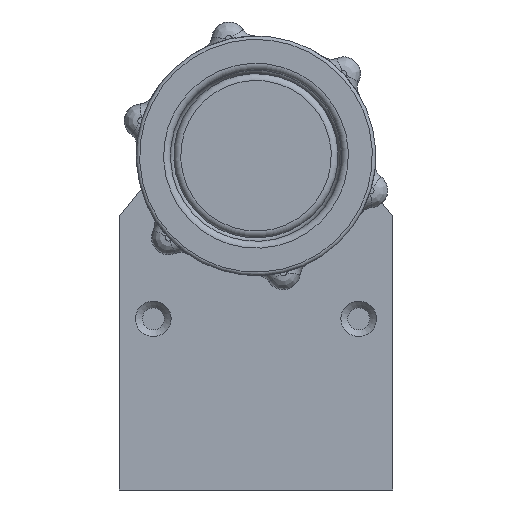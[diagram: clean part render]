
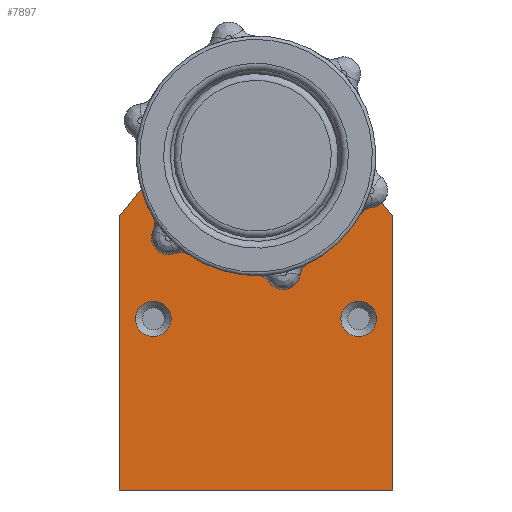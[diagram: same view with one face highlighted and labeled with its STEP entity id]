
A CAD part, front view. The second image highlights one B-rep face of the part: STEP entity #7897.
In plain terms, the highlighted planar face has unit normal (0, -1, 0).
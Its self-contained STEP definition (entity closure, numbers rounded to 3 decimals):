
#437=LINE('',#17982,#932);
#470=LINE('',#18050,#965);
#515=LINE('',#18157,#1010);
#516=LINE('',#18159,#1011);
#517=LINE('',#18162,#1012);
#932=VECTOR('',#9784,10.);
#965=VECTOR('',#9841,10.);
#1010=VECTOR('',#9944,10.);
#1011=VECTOR('',#9945,10.);
#1012=VECTOR('',#9948,10.);
#1857=FACE_BOUND('',#2598,.T.);
#1858=FACE_BOUND('',#2599,.T.);
#1859=FACE_BOUND('',#2600,.T.);
#2092=FACE_OUTER_BOUND('',#2597,.T.);
#2597=EDGE_LOOP('',(#6200,#6201,#6202,#6203,#6204,#6205));
#2598=EDGE_LOOP('',(#6206));
#2599=EDGE_LOOP('',(#6207));
#2600=EDGE_LOOP('',(#6208));
#2963=CIRCLE('',#8582,2.6);
#2965=CIRCLE('',#8585,10.);
#2966=CIRCLE('',#8586,2.6);
#2967=CIRCLE('',#8587,7.625);
#3502=VERTEX_POINT('',#17979);
#3503=VERTEX_POINT('',#17981);
#3526=VERTEX_POINT('',#18049);
#3557=VERTEX_POINT('',#18150);
#3559=VERTEX_POINT('',#18156);
#3560=VERTEX_POINT('',#18158);
#3561=VERTEX_POINT('',#18160);
#3562=VERTEX_POINT('',#18163);
#3563=VERTEX_POINT('',#18165);
#4415=EDGE_CURVE('',#3502,#3503,#437,.T.);
#4450=EDGE_CURVE('',#3526,#3503,#470,.T.);
#4500=EDGE_CURVE('',#3557,#3557,#2963,.T.);
#4503=EDGE_CURVE('',#3559,#3502,#515,.T.);
#4504=EDGE_CURVE('',#3559,#3560,#516,.T.);
#4505=EDGE_CURVE('',#3560,#3561,#2965,.T.);
#4506=EDGE_CURVE('',#3526,#3561,#517,.T.);
#4507=EDGE_CURVE('',#3562,#3562,#2966,.T.);
#4508=EDGE_CURVE('',#3563,#3563,#2967,.T.);
#6200=ORIENTED_EDGE('',*,*,#4450,.T.);
#6201=ORIENTED_EDGE('',*,*,#4415,.F.);
#6202=ORIENTED_EDGE('',*,*,#4503,.F.);
#6203=ORIENTED_EDGE('',*,*,#4504,.T.);
#6204=ORIENTED_EDGE('',*,*,#4505,.T.);
#6205=ORIENTED_EDGE('',*,*,#4506,.F.);
#6206=ORIENTED_EDGE('',*,*,#4507,.F.);
#6207=ORIENTED_EDGE('',*,*,#4508,.T.);
#6208=ORIENTED_EDGE('',*,*,#4500,.F.);
#7627=PLANE('',#8584);
#7897=ADVANCED_FACE('',(#2092,#1857,#1858,#1859),#7627,.T.);
#8582=AXIS2_PLACEMENT_3D('',#18151,#9937,#9938);
#8584=AXIS2_PLACEMENT_3D('',#18155,#9942,#9943);
#8585=AXIS2_PLACEMENT_3D('',#18161,#9946,#9947);
#8586=AXIS2_PLACEMENT_3D('',#18164,#9949,#9950);
#8587=AXIS2_PLACEMENT_3D('',#18166,#9951,#9952);
#9784=DIRECTION('',(-1.,0.,0.));
#9841=DIRECTION('',(0.,0.,-1.));
#9937=DIRECTION('center_axis',(0.,-1.,0.));
#9938=DIRECTION('ref_axis',(1.,0.,0.));
#9942=DIRECTION('center_axis',(0.,-1.,0.));
#9943=DIRECTION('ref_axis',(0.,0.,-1.));
#9944=DIRECTION('',(0.,0.,-1.));
#9945=DIRECTION('',(-0.629,0.,0.777));
#9946=DIRECTION('center_axis',(0.,-1.,0.));
#9947=DIRECTION('ref_axis',(1.,0.,0.));
#9948=DIRECTION('',(0.629,0.,0.777));
#9949=DIRECTION('center_axis',(0.,-1.,0.));
#9950=DIRECTION('ref_axis',(1.,0.,0.));
#9951=DIRECTION('center_axis',(0.,1.,0.));
#9952=DIRECTION('ref_axis',(1.,0.,0.));
#17979=CARTESIAN_POINT('',(-41.667,-3.5,-76.325));
#17981=CARTESIAN_POINT('',(-81.667,-3.5,-76.325));
#17982=CARTESIAN_POINT('',(-81.667,-3.5,-76.325));
#18049=CARTESIAN_POINT('',(-81.667,-3.5,-36.325));
#18050=CARTESIAN_POINT('',(-81.667,-3.5,-36.325));
#18150=CARTESIAN_POINT('',(-49.267,-3.5,-51.325));
#18151=CARTESIAN_POINT('Origin',(-46.667,-3.5,-51.325));
#18155=CARTESIAN_POINT('Origin',(-41.667,-3.5,-36.325));
#18156=CARTESIAN_POINT('',(-41.667,-3.5,-36.325));
#18157=CARTESIAN_POINT('',(-41.667,-3.5,-56.325));
#18158=CARTESIAN_POINT('',(-53.892,-3.5,-21.211));
#18159=CARTESIAN_POINT('',(-41.667,-3.5,-36.325));
#18160=CARTESIAN_POINT('',(-69.442,-3.5,-21.211));
#18161=CARTESIAN_POINT('Origin',(-61.667,-3.5,-27.5));
#18162=CARTESIAN_POINT('',(-81.667,-3.5,-36.325));
#18163=CARTESIAN_POINT('',(-79.267,-3.5,-51.325));
#18164=CARTESIAN_POINT('Origin',(-76.667,-3.5,-51.325));
#18165=CARTESIAN_POINT('',(-69.292,-3.5,-27.5));
#18166=CARTESIAN_POINT('Origin',(-61.667,-3.5,-27.5));
